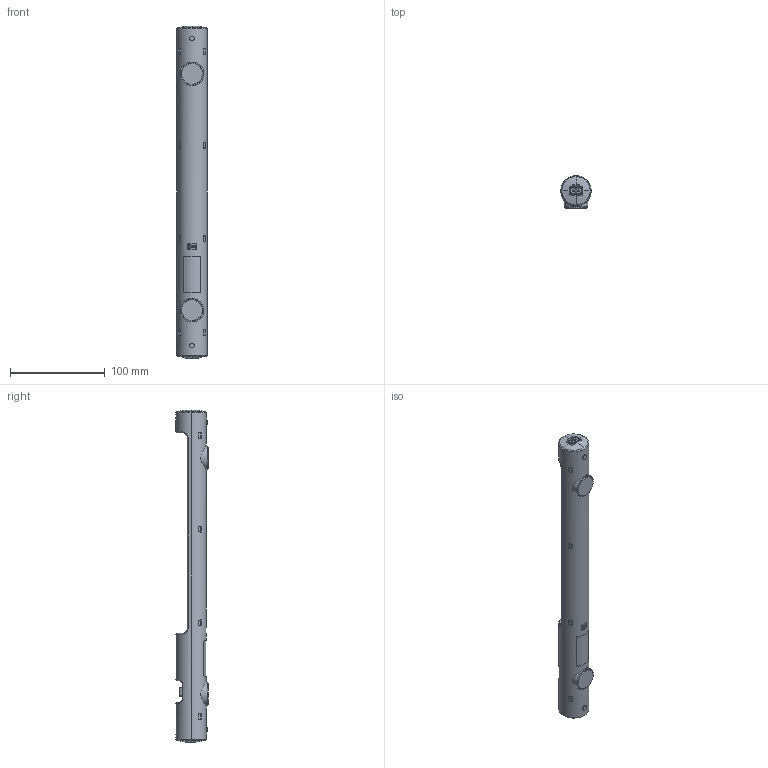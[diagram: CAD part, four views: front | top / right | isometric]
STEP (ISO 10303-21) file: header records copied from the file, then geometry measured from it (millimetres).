
FILE_DESCRIPTION (( 'STEP AP214' ), '1' );
FILE_NAME ('02540.0-00_LED-Leuchte.STEP', '2012-07-09T06:37:25', ( 'Nutzer' ), ( '' ), 'SwSTEP 2.0', 'SolidWorks 2012', '' );
FILE_SCHEMA (( 'AUTOMOTIVE_DESIGN' ));
Length unit declared in the file: millimetre
Products named in the file (1): 02540.0-00_LED-Leuchte
Bounding box: 32 x 34 x 351.2 mm (x, y, z)
Surface area: 51638.9 mm2 (no closed solid volume)
Topology: 0 solids, 18 shells, 386 faces, 1628 edges, 1237 vertices
Faces by surface type: plane 191, cylinder 137, bspline 24, cone 20, sphere 14
Entity records: 22902 total; most frequent: CARTESIAN_POINT 5565, DIRECTION 2674, ORIENTED_EDGE 2377, EDGE_CURVE 1617, VERTEX_POINT 1233, LINE 982, VECTOR 982, AXIS2_PLACEMENT_3D 846
